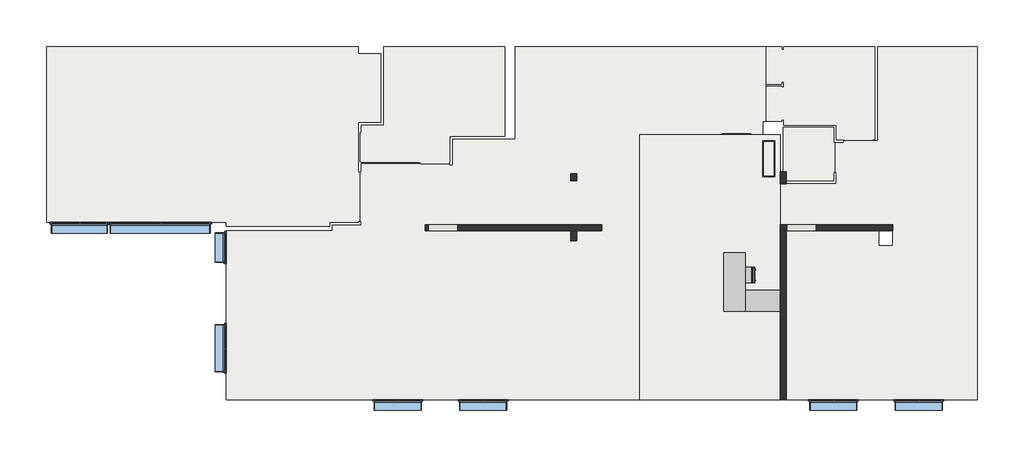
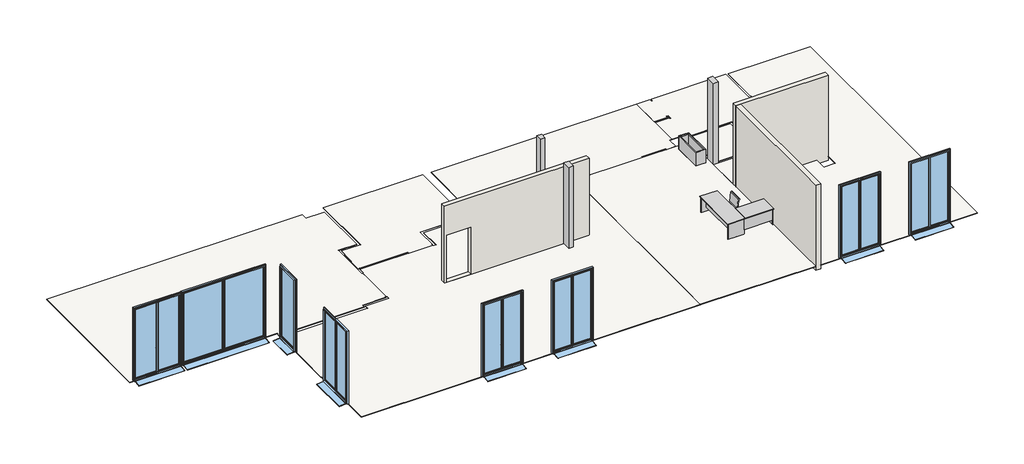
# One storey: 8 windows, 7 slabs, 3 columns, 3 furniture elements, 3 walls.
"""IFC4 building model written with IfcOpenShell, lengths in millimetres."""

from ifc_helpers import new_model, si_unit, frame, origin, place, context, project, spatial, polyline, outline, extrude, transform, mapped, element, save
from components import column_d8b84b54, column_f8625688, column_0d4067bd, furniture_89aa0d74, furniture_e10027ee, furniture_c5b035db, window_4ef66e8a, window_a5bdb8dc, window_71aed64f, window_7f9bbf53

model = new_model("IFC4")

# Units and contexts
model_context = context("Model", 3, world=origin())
ifc_project = project(units=[si_unit("LENGTHUNIT", "METRE", prefix="MILLI")], contexts=[model_context])

# Site, building, storey
site = spatial("IfcSite", under=ifc_project)
building = spatial("IfcBuilding", under=site)
storey = spatial("IfcBuildingStorey", under=building, Name="Mur de fondation T.O", Elevation=-300.0)

# Columns
placement = place(None, origin())
column_shape = column_d8b84b54(model_context)
element("IfcColumn", 1, ObjectType="Poteaux porteurs - Poteau béton - Rectangulaire - 2000mm x 400mm", at=placement, inside=storey, context=model_context, shape_type="MappedRepresentation", body=[
    mapped(column_shape, transform((-4827.496702, -6433.7824715, 0.0), x_axis=(1.0, 0.0, 0.0), y_axis=(0.0, 1.0, 0.0), z_axis=(0.0, 0.0, 1.0))),
])
column_2_shape = column_f8625688(model_context)
element("IfcColumn", 2, ObjectType="Poteaux porteurs - Poteau béton - Rectangulaire - 2000mm x 240 mm", at=placement, inside=storey, context=model_context, shape_type="MappedRepresentation", body=[
    mapped(column_2_shape, transform((-11958.5461708, -6412.5340392, 0.0), x_axis=(1.0, 0.0, 0.0), y_axis=(0.0, 1.0, 0.0), z_axis=(0.0, 0.0, 1.0))),
])
column_3_shape = column_0d4067bd(model_context)
element("IfcColumn", 3, ObjectType="Poteaux porteurs - Poteau béton - Rectangulaire - 2000mm x 350 mm", at=placement, inside=storey, context=model_context, shape_type="MappedRepresentation", body=[
    mapped(column_3_shape, transform((0.0, 0.0, 0.0), x_axis=(1.0, 0.0, 0.0), y_axis=(0.0, 1.0, 0.0), z_axis=(0.0, 0.0, 1.0))),
])

# Furniture
furniture_shape = furniture_89aa0d74(model_context)
element("IfcFurniture", 4, ObjectType="Mobilier - Bureau - En L - 2000mm x 2000mm", at=placement, inside=storey, context=model_context, shape_type="MappedRepresentation", body=[
    mapped(furniture_shape, transform((-6127.496702, -10260.5833837, -20.0), x_axis=(0.0, -1.0, 0.0), y_axis=(1.0, 0.0, 0.0), z_axis=(0.0, 0.0, 1.0))),
])
furniture_2_shape = furniture_e10027ee(model_context)
element("IfcFurniture", 5, ObjectType="Mobilier - Siège - 02 - Siège - 02", at=placement, inside=storey, context=model_context, shape_type="MappedRepresentation", body=[
    mapped(furniture_2_shape, transform((-6040.5508003, -9879.557042, -20.0), x_axis=(0.0, 1.0, 0.0), y_axis=(-1.0, 0.0, 0.0), z_axis=(0.0, 0.0, 1.0))),
])
furniture_3_shape = furniture_c5b035db(model_context)
element("IfcFurniture", 6, ObjectType="Mobilier - Furniture-Pots_Planters_and_More-Tolga_Modern_Planter_Boxes - 48\" L x 16\" W x 24\" H", at=placement, inside=storey, context=model_context, shape_type="MappedRepresentation", body=[
    mapped(furniture_3_shape, transform((-5323.496702, -5787.2154166, -20.0), x_axis=(0.0, 1.0, 0.0), y_axis=(-1.0, 0.0, 0.0), z_axis=(0.0, 0.0, 1.0))),
])

# Slabs
element("IfcSlab", 7, ObjectType="Sols - Sol - A Carrelage1 20x20", at=placement, inside=storey, context=model_context, shape_type="SweptSolid", body=[
    extrude(outline(polyline([(-1717.7552543, -1972.0566419), (-1717.7552543, -5137.6533676), (-1802.7552543, -5137.6533676), (-1802.7552543, -5177.6533676), (-2732.7552543, -5177.6533676), (-2732.7552543, -5137.6533676), (-3018.9176162, -5137.6533676), (-3018.9176162, -4652.7868397), (-4807.4967035, -4652.7868397), (-4807.4967035, -4461.805772), (-4877.4967035, -4461.805772), (-4877.4967035, -4510.805772), (-5427.496701, -4510.805772), (-5427.496701, -3327.7490792), (-4877.4967035, -3327.7490792), (-4877.4967035, -3361.805772), (-4807.4967035, -3361.805772), (-4807.4967035, -3174.0566419), (-4877.4967035, -3174.0566419), (-4877.4967035, -3257.7490792), (-5427.496701, -3257.7490792), (-5427.496701, -1972.7637486), (-4877.4967035, -1972.7637486), (-4877.4967035, -2074.0566419), (-4807.4967035, -2074.0566419), (-4807.4967035, -1972.0566419), (-1717.7552543, -1972.0566419)])), frame((0.0, 0.0, -20.0), z_axis=(0.0, 0.0, 1.0), x_axis=(1.0, 0.0, 0.0)), (0.0, 0.0, 1.0), 20.0),
])
element("IfcSlab", 8, ObjectType="Sols - Sol - A Carrelage1 20x20 (1)", at=placement, inside=storey, context=model_context, shape_type="SweptSolid", body=[
    extrude(outline(polyline([(-14296.7760862, -1972.7637486), (-14296.7760862, -5019.9219201), (-16166.6269046, -5019.9219201), (-16166.6269046, -5912.7637435), (-16181.6269046, -5912.7637435), (-16181.6269046, -5962.7637435), (-17181.6269046, -5962.7637435), (-17181.6269046, -5912.7637435), (-19182.1823363, -5912.7637435), (-19182.1823363, -5897.7637435), (-19222.1823363, -5897.7637435), (-19222.1823363, -4897.7637435), (-19182.1823363, -4897.7637435), (-19182.1823363, -4643.7637486), (-18412.1823363, -4643.7637486), (-18412.1823363, -1972.7637486), (-14296.7760862, -1972.7637486)])), frame((0.0, 0.0, -20.0), z_axis=(0.0, 0.0, 1.0), x_axis=(1.0, 0.0, 0.0)), (0.0, 0.0, 1.0), 20.0),
])
element("IfcSlab", 9, ObjectType="Sols - Sol - A Carrelage1 20x20 (2)", at=placement, inside=storey, context=model_context, shape_type="SweptSolid", body=[
    extrude(outline(polyline([(-3118.9176162, -4722.7868397), (-3118.9176162, -5252.6533676), (-3058.9176162, -5252.6533676), (-3058.9176162, -6252.6533676), (-3118.9176162, -6252.6533676), (-3118.9176162, -6533.7824715), (-4727.496702, -6533.7824715), (-4727.496702, -6233.7824715), (-4827.496702, -6233.7824715), (-4827.496702, -4722.7868397), (-3118.9176162, -4722.7868397)])), frame((0.0, 0.0, -20.0), z_axis=(0.0, 0.0, 1.0), x_axis=(1.0, 0.0, 0.0)), (0.0, 0.0, 1.0), 20.0),
])
element("IfcSlab", 10, ObjectType="Sols - Sol - A Carrelage 2 30x30", at=placement, inside=storey, context=model_context, shape_type="SweptSolid", body=[
    extrude(outline(polyline([(-19282.1823363, -1972.7637486), (-19282.1823363, -2222.7637486), (-18512.1823363, -2222.7637486), (-18512.1823363, -4543.7637486), (-19282.1823363, -4543.7637486), (-19282.1823363, -6244.4612155), (-19234.7593056, -6244.4612155), (-19234.7593056, -7914.4612155), (-19282.1823363, -7914.4612155), (-19282.1823363, -7952.7608719), (-20246.3913721, -7952.7608719), (-20246.3913721, -8080.3569594), (-23778.2803137, -8080.3569594), (-23778.2803137, -7953.0211289), (-29887.0149756, -7953.0211289), (-29887.0149756, -1972.7637486), (-19282.1823363, -1972.7637486)])), frame((0.0, 0.0, -20.0), z_axis=(0.0, 0.0, 1.0), x_axis=(1.0, 0.0, 0.0)), (0.0, 0.0, 1.0), 20.0),
])
element("IfcSlab", 11, ObjectType="Sols - Sol - A Carrelage 2 30x30 (1)", at=placement, inside=storey, context=model_context, shape_type="SweptSolid", body=[
    extrude(outline(polyline([(-4927.496702, -4978.2154166), (-4927.496702, -13978.5662223), (-9708.4471465, -13978.5662223), (-9708.4471465, -4978.2154166), (-4927.496702, -4978.2154166)])), frame((0.0, 0.0, -20.0), z_axis=(0.0, 0.0, 1.0), x_axis=(1.0, 0.0, 0.0)), (0.0, 0.0, 1.0), 20.0),
])
element("IfcSlab", 12, ObjectType="Sols - Sol - A Sol souple 1", at=placement, inside=storey, context=model_context, shape_type="SweptSolid", body=[
    extrude(outline(polyline([(-9704.6455383, -13978.5662223), (-23778.2803137, -13978.5662223), (-23778.2803137, -8230.3569594), (-20176.3913721, -8230.3569594), (-20176.3913721, -8052.7608719), (-19182.1823363, -8052.7608719), (-19182.1823363, -7914.4612155), (-19234.7593056, -7914.4612155), (-19234.7593056, -6244.4612155), (-19182.1823363, -6244.4612155), (-19182.1823363, -5962.7637435), (-16181.6269046, -5962.7637435), (-16181.6269046, -6012.7637435), (-16066.6269046, -6012.7637435), (-16066.6269046, -5119.9219201), (-14202.6238573, -5119.9219201), (-13946.7760862, -5119.9219201), (-13946.7760862, -1972.7637486), (-5427.496701, -1972.7637486), (-5427.496701, -4510.805772), (-5527.496701, -4510.805772), (-5527.496701, -4978.2154166), (-5917.4166831, -4978.2154166), (-5917.4166831, -4928.2154166), (-6917.4166831, -4928.2154166), (-6917.4166831, -4978.2154166), (-9704.6455383, -4978.2154166), (-9704.6455383, -13978.5662223)])), frame((0.0, 0.0, -20.0), z_axis=(0.0, 0.0, 1.0), x_axis=(1.0, 0.0, 0.0)), (0.0, 0.0, 1.0), 20.0),
])
element("IfcSlab", 13, ObjectType="Sols - Sol - A Sol souple 1 (1)", at=placement, inside=storey, context=model_context, shape_type="SweptSolid", body=[
    extrude(outline(polyline([(1777.6156007, -1972.7637486), (1777.6156007, -13978.5662223), (-4727.496702, -13978.5662223), (-4727.496702, -8238.2685444), (-1576.0769125, -8238.2685444), (-1576.0769125, -8751.7570094), (-1106.3922233, -8751.7570094), (-1106.3922233, -8038.2685444), (-4927.496702, -8038.2685444), (-4927.496702, -6633.7824715), (-3018.9176162, -6633.7824715), (-3018.9176162, -6252.6533676), (-3058.9176162, -6252.6533676), (-3058.9176162, -5252.6533676), (-3018.9176162, -5252.6533676), (-3018.9176162, -5237.6533676), (-2767.7552543, -5237.6533676), (-2767.7552543, -5177.6533676), (-1617.7552543, -5177.6533676), (-1617.7552543, -1972.7637486), (1777.6156007, -1972.7637486)])), frame((0.0, 0.0, -20.0), z_axis=(0.0, 0.0, 1.0), x_axis=(1.0, 0.0, 0.0)), (0.0, 0.0, 1.0), 20.0),
])

# Walls
element("IfcWall", 14, ObjectType="Murs - Mur de base - A Ext. Voile BA 20", at=placement, inside=storey, context=model_context, shape_type="SweptSolid", body=[
    extrude(outline(polyline([(3550.0, -1102.2052719), (3550.0, -4927.496702), (-180.0, -4927.496702), (-180.0, -1102.2052719), (3550.0, -1102.2052719)]), holes=[polyline([(2075.0, -3712.496702), (0.0, -3712.496702), (0.0, -4712.496702), (2075.0, -4712.496702), (2075.0, -3712.496702)])]), frame((0.0, -8238.2685444, 0.0), z_axis=(0.0, 1.0, 0.0), x_axis=(0.0, 0.0, 1.0)), (0.0, 0.0, 1.0), 200.0),
])
element("IfcWall", 15, ObjectType="Murs - Mur de base - A Ext. Voile BA 20", at=placement, inside=storey, context=model_context, shape_type="SweptSolid", body=[
    extrude(outline(polyline([(-4727.496702, -13978.5662223), (-4927.496702, -13978.5662223), (-4927.496702, -8238.2685444), (-4727.496702, -8238.2685444), (-4727.496702, -13978.5662223)])), frame((0.0, 0.0, -180.0), z_axis=(0.0, 0.0, 1.0), x_axis=(1.0, 0.0, 0.0)), (0.0, 0.0, 1.0), 3730.0),
])
element("IfcWall", 16, ObjectType="Murs - Mur de base - A Ext. Voile BA 20", at=placement, inside=storey, context=model_context, shape_type="SweptSolid", body=[
    extrude(outline(polyline([(3370.0, -11003.1086334), (3370.0, -17005.446161), (-180.0, -17005.446161), (-180.0, -11003.1086334), (3370.0, -11003.1086334)]), holes=[polyline([(2075.0, -15905.446161), (0.0, -15905.446161), (0.0, -16905.446161), (2075.0, -16905.446161), (2075.0, -15905.446161)])]), frame((0.0, -8232.7637435, 0.0), z_axis=(0.0, 1.0, 0.0), x_axis=(0.0, 0.0, 1.0)), (0.0, 0.0, 1.0), 200.0),
])

# Windows
window_shape = window_4ef66e8a(model_context)
element("IfcWindow", 17, ObjectType="Fenêtres - PF 2 Vantaux - Droits - 1.60 x 3.15", at=placement, inside=storey, context=model_context, shape_type="MappedRepresentation", body=[
    mapped(window_shape, transform((-2270.1625689, -13658.5662223, 0.0), x_axis=(-1.0, 0.0, 0.0), y_axis=(0.0, -1.0, 0.0), z_axis=(0.0, 0.0, 1.0))),
])
element("IfcWindow", 18, ObjectType="Fenêtres - PF 2 Vantaux - Droits - 1.60 x 3.15", at=placement, inside=storey, context=model_context, shape_type="MappedRepresentation", body=[
    mapped(window_shape, transform((627.6156007, -13658.5662223, 0.0), x_axis=(-1.0, 0.0, 0.0), y_axis=(0.0, -1.0, 0.0), z_axis=(0.0, 0.0, 1.0))),
])
element("IfcWindow", 19, ObjectType="Fenêtres - PF 2 Vantaux - Droits - 1.60 x 3.15", at=placement, inside=storey, context=model_context, shape_type="MappedRepresentation", body=[
    mapped(window_shape, transform((-14188.6355893, -13658.5662223, 0.0), x_axis=(-1.0, 0.0, 0.0), y_axis=(0.0, -1.0, 0.0), z_axis=(0.0, 0.0, 1.0))),
])
element("IfcWindow", 20, ObjectType="Fenêtres - PF 2 Vantaux - Droits - 1.60 x 3.15", at=placement, inside=storey, context=model_context, shape_type="MappedRepresentation", body=[
    mapped(window_shape, transform((-17088.6355893, -13658.5662223, 0.0), x_axis=(-1.0, 0.0, 0.0), y_axis=(0.0, -1.0, 0.0), z_axis=(0.0, 0.0, 1.0))),
])
element("IfcWindow", 21, ObjectType="Fenêtres - PF 2 Vantaux - Droits - 1.60 x 3.15", at=placement, inside=storey, context=model_context, shape_type="MappedRepresentation", body=[
    mapped(window_shape, transform((-23458.2803137, -13086.9624952, 0.0), x_axis=(0.0, 1.0, 0.0), y_axis=(-1.0, 0.0, 0.0), z_axis=(0.0, 0.0, 1.0))),
])
window_2_shape = window_a5bdb8dc(model_context)
element("IfcWindow", 22, ObjectType="Fenêtres - PF 2 Vantaux - Droits - 1.90 x 3.15", at=placement, inside=storey, context=model_context, shape_type="MappedRepresentation", body=[
    mapped(window_2_shape, transform((-27773.4832661, -7633.0211289, 0.0), x_axis=(-1.0, 0.0, 0.0), y_axis=(0.0, -1.0, 0.0), z_axis=(0.0, 0.0, 1.0))),
])
window_3_shape = window_71aed64f(model_context)
element("IfcWindow", 23, ObjectType="Fenêtres - PF 1 Vantail - Droite - 1.00m x 3.15m", at=placement, inside=storey, context=model_context, shape_type="MappedRepresentation", body=[
    mapped(window_3_shape, transform((-23458.2803137, -9360.0211289, 0.0), x_axis=(0.0, 1.0, 0.0), y_axis=(-1.0, 0.0, 0.0), z_axis=(0.0, 0.0, 1.0))),
])
window_4_shape = window_7f9bbf53(model_context)
element("IfcWindow", 24, ObjectType="Fenêtres - PF 2 Vantaux - Droits - 3.40 x 3.15", at=placement, inside=storey, context=model_context, shape_type="MappedRepresentation", body=[
    mapped(window_4_shape, transform((-24272.6070707, -7633.0211289, 0.0), x_axis=(-1.0, 0.0, 0.0), y_axis=(0.0, -1.0, 0.0), z_axis=(0.0, 0.0, 1.0))),
])

save(model, "model.ifc")
